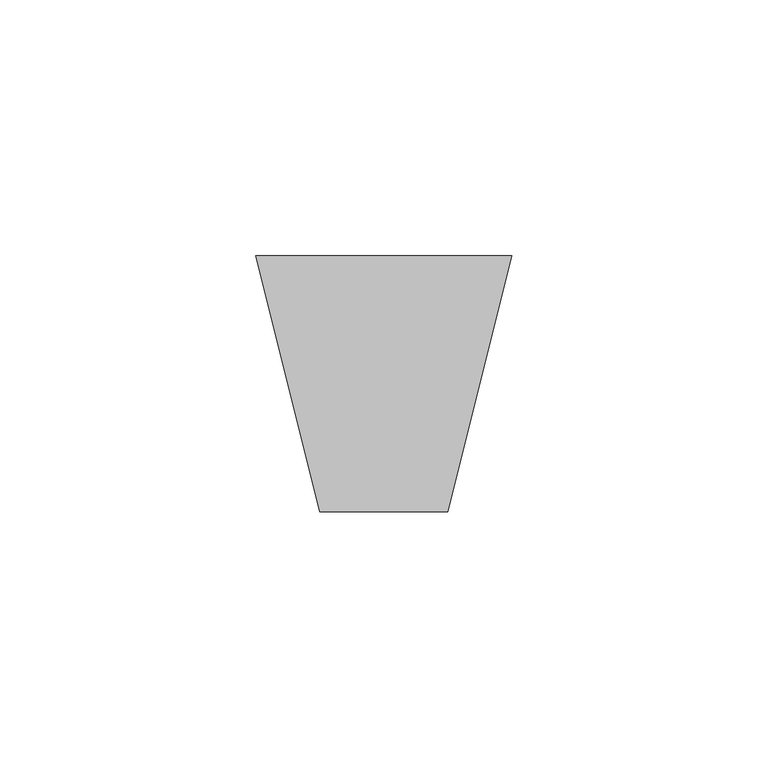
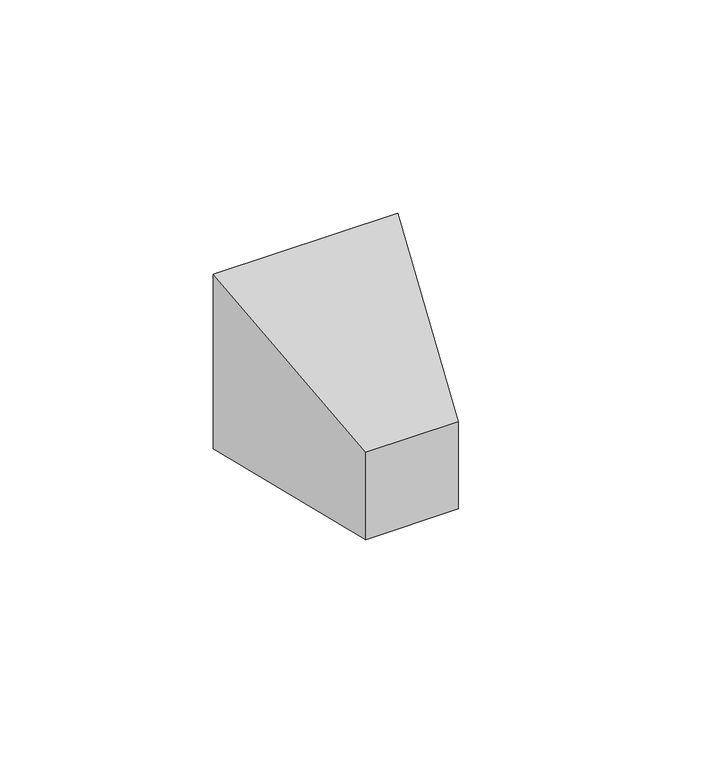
"""IFC4 building model written with IfcOpenShell, lengths in millimetres: duct fitting geometry, Переходник на напольный кабель-канал : Переходник на напольный кабель-канал Кат. № 0 328 00."""

from ifc_helpers import new_model, si_unit, origin, place, context, project, spatial, faceted_brep, source, transform, mapped, element, save


def duct_fitting_62789fd8(model_context):
    return source(origin(), model_context, "Body", "Brep", [
        faceted_brep([(12.5, -25.0, 25.0), (-12.5, -25.0, 25.0), (-12.5, -25.0, 0.0), (12.5, -25.0, 0.0), (25.0, 25.0, 50.0), (25.0, 25.0, 0.0), (-25.0, 25.0, 0.0), (-25.0, 25.0, 50.0)], [[[0, 1, 2, 3]], [[4, 5, 6, 7]], [[4, 7, 1, 0]], [[7, 6, 2, 1]], [[6, 5, 3, 2]], [[5, 4, 0, 3]]]),
    ])


if __name__ == "__main__":
    model = new_model("IFC4")
    model_context = context("Model", 3, world=origin())
    ifc_project = project(units=[si_unit("LENGTHUNIT", "METRE", prefix="MILLI")], contexts=[model_context])
    site = spatial("IfcSite", under=ifc_project)
    building = spatial("IfcBuilding", under=site)
    placement = place(None, origin())
    duct_fitting_shape = duct_fitting_62789fd8(model_context)
    element("IfcDuctFitting", 1, ObjectType="Переходник на напольный кабель-канал : Переходник на напольный кабель-канал Кат. № 0 328 00", at=placement, inside=building, context=model_context, shape_type="MappedRepresentation", body=[
        mapped(duct_fitting_shape, transform((0.0, 0.0, 0.0), x_axis=(1.0, 0.0, 0.0), y_axis=(0.0, 1.0, 0.0), z_axis=(0.0, 0.0, 1.0))),
    ])
    save(model, "model.ifc")
